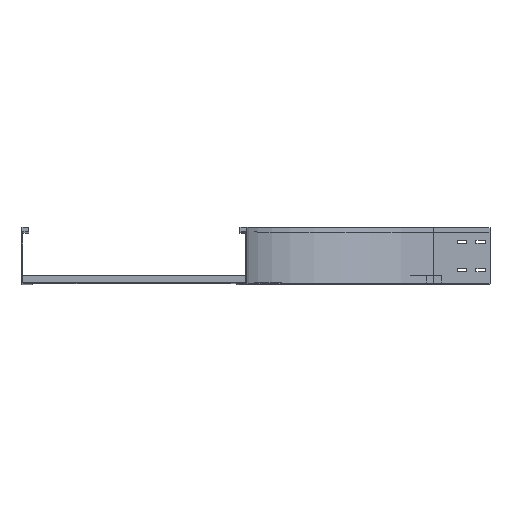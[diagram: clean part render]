
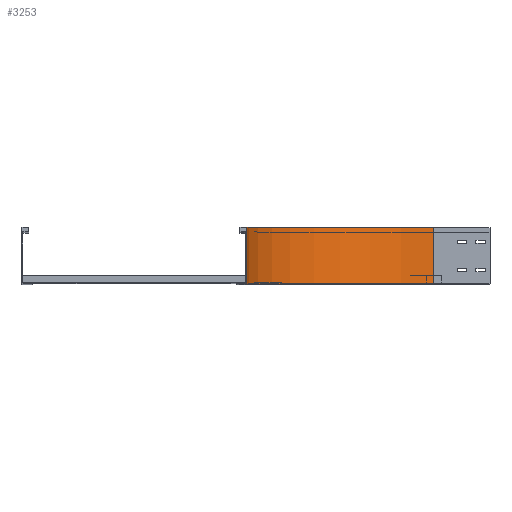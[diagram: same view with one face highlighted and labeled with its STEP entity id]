
A CAD part, top view. The second image highlights one B-rep face of the part: STEP entity #3253.
In plain terms, the highlighted cylindrical face has radius 500 mm (diameter 1000 mm), a partial arc.
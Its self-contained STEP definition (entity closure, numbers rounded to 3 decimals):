
#53 = AXIS2_PLACEMENT_3D ( 'NONE', #2991, #4257, #2943 ) ;
#159 = EDGE_CURVE ( 'NONE', #4162, #1863, #962, .T. ) ;
#357 = CARTESIAN_POINT ( 'NONE',  ( 500., 0., -650. ) ) ;
#451 = CYLINDRICAL_SURFACE ( 'NONE', #889, 500. ) ;
#831 = VERTEX_POINT ( 'NONE', #2931 ) ;
#860 = VECTOR ( 'NONE', #2263, 1000. ) ;
#867 = VERTEX_POINT ( 'NONE', #1285 ) ;
#889 = AXIS2_PLACEMENT_3D ( 'NONE', #4090, #1757, #1158 ) ;
#962 = LINE ( 'NONE', #357, #860 ) ;
#1140 = ORIENTED_EDGE ( 'NONE', *, *, #3252, .F. ) ;
#1158 = DIRECTION ( 'NONE',  ( 0., 0., -1. ) ) ;
#1285 = CARTESIAN_POINT ( 'NONE',  ( 0., 0., -150. ) ) ;
#1365 = VECTOR ( 'NONE', #3014, 1000. ) ;
#1382 = CARTESIAN_POINT ( 'NONE',  ( 0., 0., -150. ) ) ;
#1593 = ORIENTED_EDGE ( 'NONE', *, *, #2510, .T. ) ;
#1717 = AXIS2_PLACEMENT_3D ( 'NONE', #2119, #2165, #2078 ) ;
#1757 = DIRECTION ( 'NONE',  ( 0., -1., 0. ) ) ;
#1863 = VERTEX_POINT ( 'NONE', #2655 ) ;
#1872 = ORIENTED_EDGE ( 'NONE', *, *, #2685, .F. ) ;
#2020 = EDGE_LOOP ( 'NONE', ( #1140, #1872, #1593, #3377 ) ) ;
#2078 = DIRECTION ( 'NONE',  ( -1., 0., 0. ) ) ;
#2119 = CARTESIAN_POINT ( 'NONE',  ( 500., 150., -150. ) ) ;
#2165 = DIRECTION ( 'NONE',  ( 0., -1., 0. ) ) ;
#2250 = CIRCLE ( 'NONE', #53, 500. ) ;
#2263 = DIRECTION ( 'NONE',  ( 0., 1., 0. ) ) ;
#2402 = CIRCLE ( 'NONE', #1717, 500. ) ;
#2510 = EDGE_CURVE ( 'NONE', #867, #4162, #2250, .T. ) ;
#2655 = CARTESIAN_POINT ( 'NONE',  ( 500., 150., -650. ) ) ;
#2685 = EDGE_CURVE ( 'NONE', #867, #831, #3380, .T. ) ;
#2848 = FACE_OUTER_BOUND ( 'NONE', #2020, .T. ) ;
#2905 = CARTESIAN_POINT ( 'NONE',  ( 500., 0., -650. ) ) ;
#2931 = CARTESIAN_POINT ( 'NONE',  ( 0., 150., -150. ) ) ;
#2943 = DIRECTION ( 'NONE',  ( -1., 0., 0. ) ) ;
#2991 = CARTESIAN_POINT ( 'NONE',  ( 500., 0., -150. ) ) ;
#3014 = DIRECTION ( 'NONE',  ( 0., 1., 0. ) ) ;
#3252 = EDGE_CURVE ( 'NONE', #831, #1863, #2402, .T. ) ;
#3253 = ADVANCED_FACE ( 'NONE', ( #2848 ), #451, .F. ) ;
#3377 = ORIENTED_EDGE ( 'NONE', *, *, #159, .T. ) ;
#3380 = LINE ( 'NONE', #1382, #1365 ) ;
#4090 = CARTESIAN_POINT ( 'NONE',  ( 500., 0., -150. ) ) ;
#4162 = VERTEX_POINT ( 'NONE', #2905 ) ;
#4257 = DIRECTION ( 'NONE',  ( 0., -1., 0. ) ) ;
